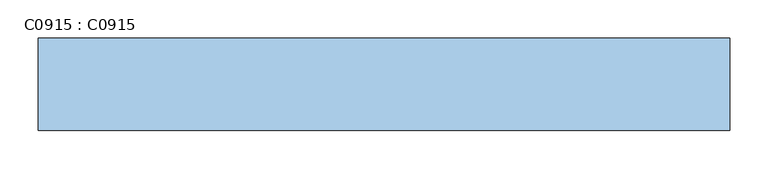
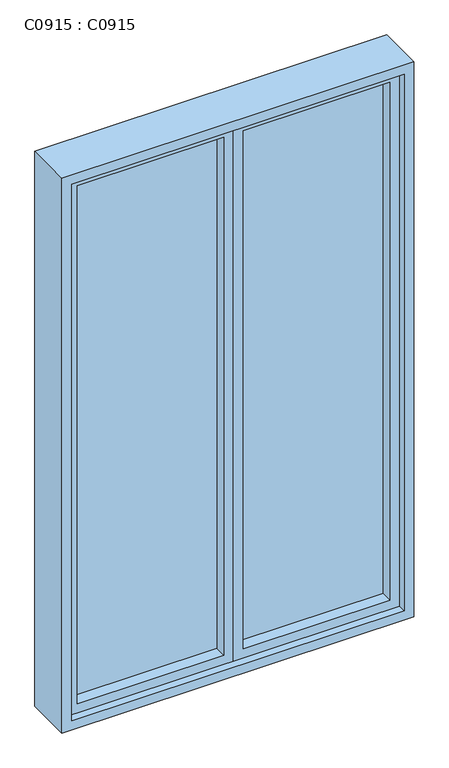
"""IFC4 building model written with IfcOpenShell, lengths in millimetres: window geometry, C0915 : C0915."""

import ifcopenshell
import ifcopenshell.guid

model = None  # the IFC model being written
_history = None  # IfcOwnerHistory: only IFC2X3 demands one
_inside = {}  # id of a spatial element -> (the spatial element, [elements in it])
_under = {}  # id of a project, library or spatial element -> (it, [spatial elements below it])
_declared = {}  # id of a project -> (the project, [libraries it declares])
_typed = {}  # id of a type object -> (the type object, [elements of that type])
_made_of = {}  # id of a material, layer set ... -> (it, [elements and type objects made of it])


def new_model(schema):
    """Start an empty IFC model of exactly this schema.

    Asked for "IFC4X3", IfcOpenShell would pick the latest addendum, in which some entities
    have other attributes; the version numbers below select the first issue.
    IFC2X3 requires an IfcOwnerHistory on every rooted entity: one is made here for all.
    """
    global model, _history
    if schema == "IFC4X3":
        model = ifcopenshell.file(schema_version=(4, 3, 0, 0))
    else:
        model = ifcopenshell.file(schema=schema)
    _inside.clear()
    _under.clear()
    _declared.clear()
    _typed.clear()
    _made_of.clear()
    _history = None
    if model.schema == "IFC2X3":
        org = make("IfcOrganization", Name="unknown")
        user = make(
            "IfcPersonAndOrganization",
            ThePerson=make("IfcPerson", FamilyName="unknown"),
            TheOrganization=org,
        )
        app = make(
            "IfcApplication",
            ApplicationDeveloper=org,
            Version="unknown",
            ApplicationFullName="unknown",
            ApplicationIdentifier="unknown",
        )
        _history = make(
            "IfcOwnerHistory",
            OwningUser=user,
            OwningApplication=app,
            ChangeAction="ADDED",
            CreationDate=0,
        )
    return model


def make(cls, **values):
    """One entity of the class cls with the attributes given. An attribute that is None is left unset."""
    return model.create_entity(
        cls, **{name: value for name, value in values.items() if value is not None}
    )


def rooted(cls, **values):
    """An entity with a GlobalId (a new one), such as an element, a storey or a relation."""
    return make(cls, GlobalId=ifcopenshell.guid.new(), OwnerHistory=_history, **values)


def si_unit(unit_type, name, prefix=None):
    """IfcSIUnit, for example si_unit("LENGTHUNIT", "METRE", prefix="MILLI")."""
    return make("IfcSIUnit", UnitType=unit_type, Prefix=prefix, Name=name)


def assignment(units):
    """IfcUnitAssignment: the units of a project."""
    return None if units is None else make("IfcUnitAssignment", Units=units)


def point(xyz):
    """IfcCartesianPoint."""
    return None if xyz is None else make("IfcCartesianPoint", Coordinates=xyz)


def direction(xyz):
    """IfcDirection."""
    return None if xyz is None else make("IfcDirection", DirectionRatios=xyz)


def frame(location, z_axis=None, x_axis=None):
    """IfcAxis2Placement3D, a coordinate frame: its origin and axes. An axis left out is left unset."""
    return make(
        "IfcAxis2Placement3D",
        Location=point(location),
        Axis=direction(z_axis),
        RefDirection=direction(x_axis),
    )


def origin():
    """The frame at (0, 0, 0) with its axes left unset."""
    return frame((0.0, 0.0, 0.0))


def place(relative_to, where):
    """IfcLocalPlacement: puts the frame where relative to a parent placement (None: the world)."""
    return make(
        "IfcLocalPlacement", PlacementRelTo=relative_to, RelativePlacement=where
    )


def context(
    kind, dimensions, precision=None, world=None, true_north=None, identifier=None
):
    """IfcGeometricRepresentationContext, for example the 3D "Model" context."""
    return make(
        "IfcGeometricRepresentationContext",
        ContextIdentifier=identifier,
        ContextType=kind,
        CoordinateSpaceDimension=dimensions,
        Precision=precision,
        WorldCoordinateSystem=world,
        TrueNorth=true_north,
    )


def project(units=None, contexts=None):
    """IfcProject with its units and contexts."""
    return rooted(
        "IfcProject",
        Name="project",
        RepresentationContexts=contexts,
        UnitsInContext=assignment(units),
    )


def spatial(cls, under=None, at=None, **own):
    """A site, building, storey or space (cls), placed at a placement, below another one or the project."""
    s = rooted(cls, ObjectPlacement=at, **own)
    if under is not None:
        _under.setdefault(under.id(), (under, []))[1].append(s)
    return s


def polyline(points):
    """IfcPolyline through the points."""
    return make("IfcPolyline", Points=[point(p) for p in points])


def outline(outer, holes=None, kind="AREA"):
    """IfcArbitraryClosedProfileDef: a profile drawn as a closed curve; with holes, ...WithVoids."""
    if holes is None:
        return make("IfcArbitraryClosedProfileDef", ProfileType=kind, OuterCurve=outer)
    return make(
        "IfcArbitraryProfileDefWithVoids",
        ProfileType=kind,
        OuterCurve=outer,
        InnerCurves=holes,
    )


def extrude(swept, where, along, depth):
    """IfcExtrudedAreaSolid: the profile swept, set in the frame where, extruded along a direction by depth."""
    return make(
        "IfcExtrudedAreaSolid",
        SweptArea=swept,
        Position=where,
        ExtrudedDirection=direction(along),
        Depth=depth,
    )


def shape(context_of_items, identifier, shape_type, items):
    """IfcShapeRepresentation: the items that make up one representation, for example the "Body"."""
    return make(
        "IfcShapeRepresentation",
        ContextOfItems=context_of_items,
        RepresentationIdentifier=identifier,
        RepresentationType=shape_type,
        Items=items,
    )


def source(mapping_origin, context_of_items, identifier, shape_type, items):
    """IfcRepresentationMap: a shape defined once, which mapped items show again and again."""
    return make(
        "IfcRepresentationMap",
        MappingOrigin=mapping_origin,
        MappedRepresentation=shape(context_of_items, identifier, shape_type, items),
    )


def transform(
    local_origin,
    x_axis=None,
    y_axis=None,
    z_axis=None,
    scale=None,
    scale2=None,
    scale3=None,
    uniform=True,
):
    """IfcCartesianTransformationOperator3D, or its non-uniform kind. x_axis, y_axis, z_axis: its Axis1, 2, 3."""
    if uniform:
        return make(
            "IfcCartesianTransformationOperator3D",
            Axis1=direction(x_axis),
            Axis2=direction(y_axis),
            LocalOrigin=point(local_origin),
            Scale=scale,
            Axis3=direction(z_axis),
        )
    return make(
        "IfcCartesianTransformationOperator3DnonUniform",
        Axis1=direction(x_axis),
        Axis2=direction(y_axis),
        LocalOrigin=point(local_origin),
        Scale=scale,
        Axis3=direction(z_axis),
        Scale2=scale2,
        Scale3=scale3,
    )


def mapped(mapping_source, mapping_target):
    """IfcMappedItem: shows the shape of a source again, moved by a transform."""
    return make(
        "IfcMappedItem", MappingSource=mapping_source, MappingTarget=mapping_target
    )


def made_of(thing, what):
    """Note that an element or type object is made of a material, layer set ...; save() writes the relation."""
    if what is not None:
        _made_of.setdefault(what.id(), (what, []))[1].append(thing)
    return thing


def element(
    cls,
    number,
    at=None,
    inside=None,
    cuts=None,
    type_object=None,
    material=None,
    context=None,
    identifier="Body",
    shape_type=None,
    held_by="IfcProductDefinitionShape",
    body=None,
    shapes=None,
    **own,
):
    """One element of the class cls, such as IfcWall. Its Tag is "e" and its number.

    at: its placement. inside: the storey or other place that contains it. cuts: it is an
    opening in that element (IfcRelVoidsElement). A single representation is given by context,
    identifier, shape_type and body (its items); several are given by shapes. held_by: the class
    of the entity that holds the representations. save() writes the other relations.
    """
    e = rooted(cls, Tag="e%d" % number, ObjectPlacement=at, **own)
    if body is not None:
        shapes = [shape(context, identifier, shape_type, body)]
    if shapes is not None:
        e.Representation = make(held_by, Representations=shapes)
    if inside is not None:
        _inside.setdefault(inside.id(), (inside, []))[1].append(e)
    if cuts is not None:
        rooted(
            "IfcRelVoidsElement", RelatingBuildingElement=cuts, RelatedOpeningElement=e
        )
    if type_object is not None:
        _typed.setdefault(type_object.id(), (type_object, []))[1].append(e)
    return made_of(e, material)


def aggregate(whole, parts):
    """IfcRelAggregates: a whole, such as a stair, and the parts it consists of."""
    return rooted("IfcRelAggregates", RelatingObject=whole, RelatedObjects=parts)


def save(model, path):
    """Write the relations noted so far, then the file.

    IfcRelAggregates (storeys below a building ...), IfcRelContainedInSpatialStructure (elements
    in a storey), IfcRelDefinesByType, IfcRelAssociatesMaterial and IfcRelDeclares: one each for
    every whole, place, type object, material and project.
    """
    for whole, parts in _under.values():
        aggregate(whole, parts)
    for where, things in _inside.values():
        rooted(
            "IfcRelContainedInSpatialStructure",
            RelatedElements=things,
            RelatingStructure=where,
        )
    for kind, things in _typed.values():
        rooted("IfcRelDefinesByType", RelatedObjects=things, RelatingType=kind)
    for what, things in _made_of.values():
        rooted("IfcRelAssociatesMaterial", RelatedObjects=things, RelatingMaterial=what)
    for by, libraries in _declared.values():
        rooted("IfcRelDeclares", RelatingContext=by, RelatedDefinitions=libraries)
    model.write(path)


def c0915_c0915_c0da6e5c(model_context):
    return source(origin(), model_context, "Body", "SweptSolid", [
        extrude(outline(polyline([(-25.0, 10.0), (-25.0, -10.0), (-400.0, -10.0), (-400.0, 10.0), (-25.0, 10.0)])), frame((0.0, 0.0, 950.0), z_axis=(0.0, 0.0, 1.0), x_axis=(1.0, 0.0, 0.0)), (0.0, 0.0, 1.0), 1400.0),
        extrude(outline(polyline([(25.0, 10.0), (400.0, 10.0), (400.0, -10.0), (25.0, -10.0), (25.0, 10.0)])), frame((0.0, 0.0, 950.0), z_axis=(0.0, 0.0, 1.0), x_axis=(1.0, 0.0, 0.0)), (0.0, 0.0, 1.0), 1400.0),
        extrude(outline(polyline([(925.0, 0.0), (925.0, 425.0), (2375.0, 425.0), (2375.0, 0.0), (925.0, 0.0)]), holes=[polyline([(2350.0, 25.0), (2350.0, 400.0), (950.0, 400.0), (950.0, 25.0), (2350.0, 25.0)])]), frame((0.0, -40.0, 0.0), z_axis=(0.0, 1.0, 0.0), x_axis=(0.0, 0.0, 1.0)), (0.0, 0.0, 1.0), 80.0),
        extrude(outline(polyline([(2375.0, 0.0), (2375.0, -425.0), (925.0, -425.0), (925.0, 0.0), (2375.0, 0.0)]), holes=[polyline([(950.0, -25.0), (950.0, -400.0), (2350.0, -400.0), (2350.0, -25.0), (950.0, -25.0)])]), frame((0.0, -40.0, 0.0), z_axis=(0.0, 1.0, 0.0), x_axis=(0.0, 0.0, 1.0)), (0.0, 0.0, 1.0), 80.0),
        extrude(outline(polyline([(2400.0, 450.0), (2400.0, -450.0), (900.0, -450.0), (900.0, 450.0), (2400.0, 450.0)]), holes=[polyline([(925.0, 425.0), (925.0, -425.0), (2375.0, -425.0), (2375.0, 425.0), (925.0, 425.0)])]), frame((0.0, -60.0, 0.0), z_axis=(0.0, 1.0, 0.0), x_axis=(0.0, 0.0, 1.0)), (0.0, 0.0, 1.0), 120.0),
    ])


if __name__ == "__main__":
    model = new_model("IFC4")
    model_context = context("Model", 3, world=origin())
    ifc_project = project(units=[si_unit("LENGTHUNIT", "METRE", prefix="MILLI")], contexts=[model_context])
    site = spatial("IfcSite", under=ifc_project)
    building = spatial("IfcBuilding", under=site)
    placement = place(None, origin())
    c0915_c0915_shape = c0915_c0915_c0da6e5c(model_context)
    element("IfcWindow", 1, ObjectType="C0915 : C0915", at=placement, inside=building, context=model_context, shape_type="MappedRepresentation", body=[
        mapped(c0915_c0915_shape, transform((0.0, 0.0, 0.0), x_axis=(1.0, 0.0, 0.0), y_axis=(0.0, 1.0, 0.0), z_axis=(0.0, 0.0, 1.0))),
    ])
    save(model, "model.ifc")
